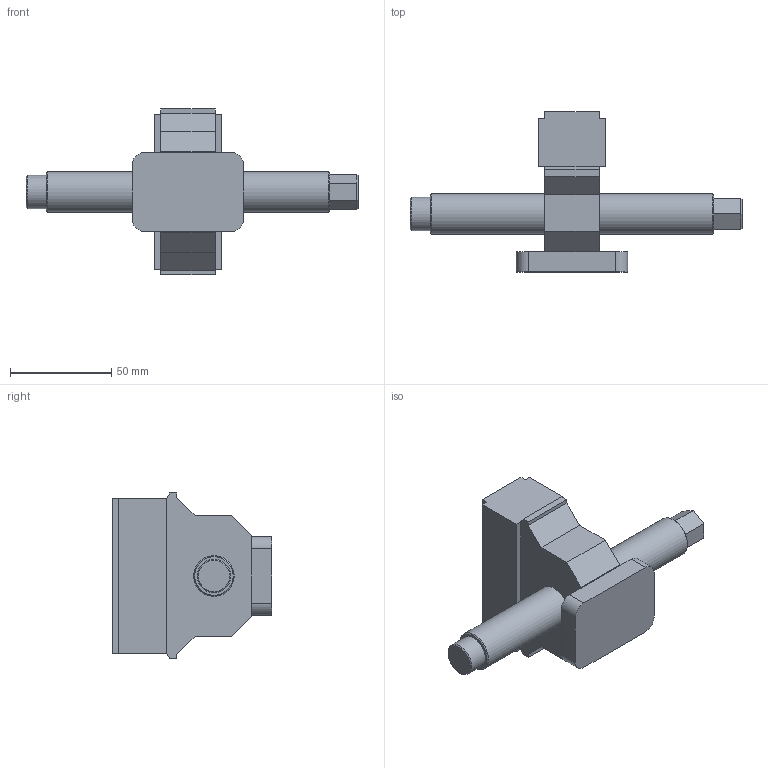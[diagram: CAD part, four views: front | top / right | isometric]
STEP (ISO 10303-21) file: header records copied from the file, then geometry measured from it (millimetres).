
FILE_DESCRIPTION (( 'STEP AP214' ), '1' );
FILE_NAME ('48155-TG7727.STEP', '2020-03-24T15:25:20', ( '' ), ( '' ), 'SwSTEP 2.0', 'SolidWorks 2019', '' );
FILE_SCHEMA (( 'AUTOMOTIVE_DESIGN' ));
Length unit declared in the file: millimetre
Products named in the file (1): 48155-TG7727
Bounding box: 164 x 79 x 82 mm (x, y, z)
Volume: 198794.2 mm3; surface area: 30494.9 mm2
Topology: 1 solids, 1 shells, 73 faces, 177 edges, 111 vertices
Faces by surface type: plane 63, cylinder 7, cone 3
Full cylindrical faces by diameter (mm): 16.5 x1, 20 x2
Entity records: 2792 total; most frequent: CARTESIAN_POINT 352, ORIENTED_EDGE 338, DIRECTION 334, EDGE_CURVE 169, LINE 152, VECTOR 152, VERTEX_POINT 109, AXIS2_PLACEMENT_3D 91
